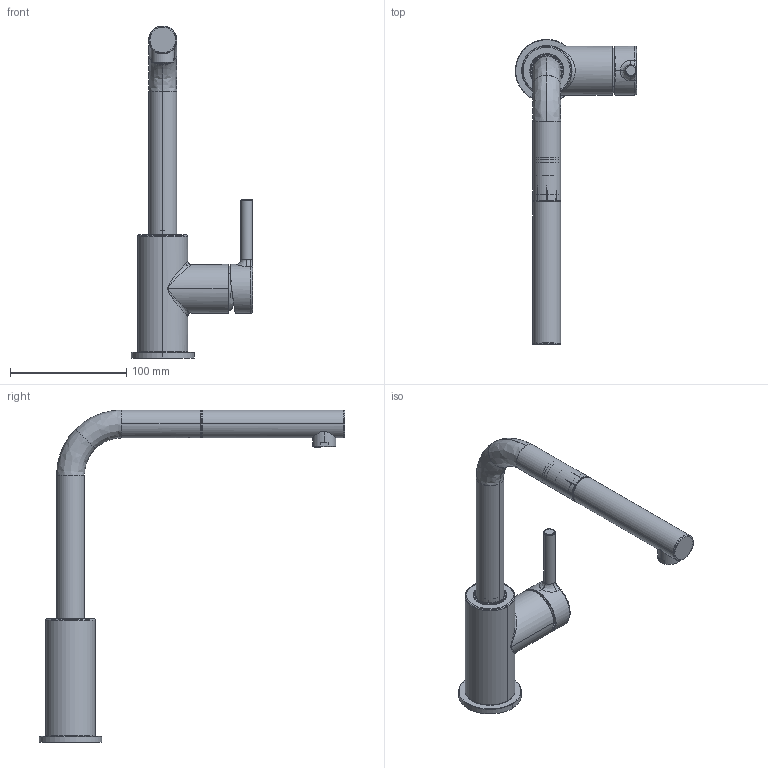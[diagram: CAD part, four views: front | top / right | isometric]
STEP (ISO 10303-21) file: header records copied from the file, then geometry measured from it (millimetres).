
FILE_DESCRIPTION(/* description */ (''),/* implementation_level */ '2;1');
FILE_NAME(/* name */ '3D001_Taps_Lina_L-Pull-Out-Nozzle',/* time_stamp */ '2026-08-06T09:44:15+02:00',/* author */ (''),/* organization */ (''),/* preprocessor_version */ 'ST-DEVELOPER v19.2',/* originating_system */ 'Rhino 8.31',/* authorisation */ '');
FILE_SCHEMA (('CONFIG_CONTROL_DESIGN'));
Length unit declared in the file: millimetre
Products named in the file (19): Document; S_PRG_FR03623_0041; S_PRG_FR03623_0044; S_PRG_FR03623_0088_07; S_PRG_FR03623_0088_06; S_PRG_FR03623_0042; S_PRG_FR03623_0067; S_PRG_FR03623_0040; S_PRG_FR03623_0039; S_PRG_FR03623_0062; S_PRG_FR03623_0023; S_PRG_FR03623_0027; S_PRG_FR03623_0087_MAN_ASM; S_PRG_FR03623_0087_01; S_PRG_FR03623_0087_02; S_PRG_FR03623_0094_COPRIG_ASM; S_PRG_FR03623_0094_01; S_PRG_FR03623_0094_02; S_PRG_FR03623_0006
Bounding box: 104.35 x 263 x 285.5 mm (x, y, z)
Volume: 110977.2 mm3; surface area: 123389.6 mm2
Topology: 24 solids, 34 shells, 2371 faces, 5499 edges, 3205 vertices
Faces by surface type: plane 1188, bspline 973, cylinder 210
Entity records: 93049 total; most frequent: CARTESIAN_POINT 52576, ORIENTED_EDGE 10924, EDGE_CURVE 5485, B_SPLINE_CURVE_WITH_KNOTS 3959, VERTEX_POINT 3199, DIRECTION 2932, EDGE_LOOP 2438, ADVANCED_FACE 2365
